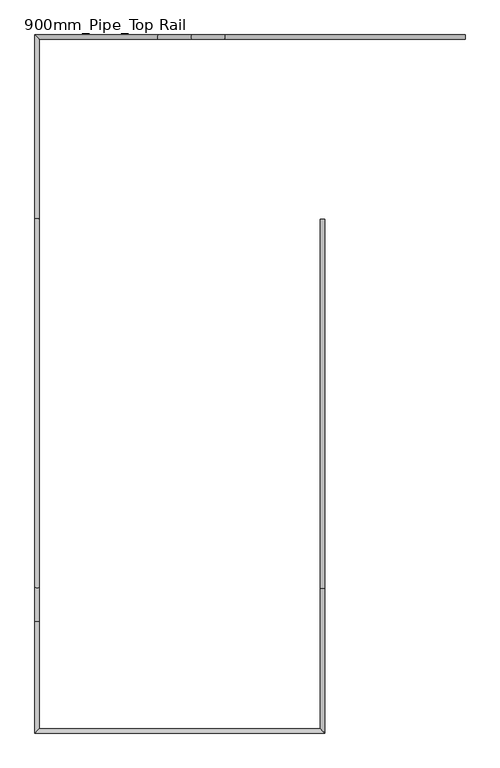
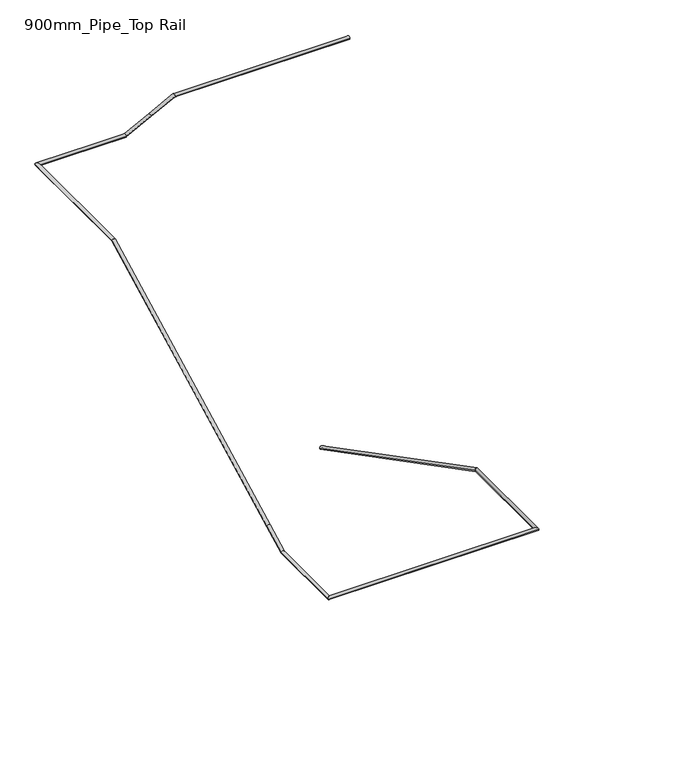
"""IFC4 building model written with IfcOpenShell, lengths in millimetres: railing geometry, 900mm_Pipe_Top Rail."""

from ifc_helpers import new_model, si_unit, frame, origin, place, context, project, spatial, circle_curve, ellipse_curve, source, transform, mapped, element, save
from ifc_brep_helpers import plane_surface, cylinder_surface, advanced_brep


def railing_900mm_pipe_top_rail_45b8a4e9(model_context):
    return source(origin(), model_context, "Body", "AdvancedBrep", [
        advanced_brep(
        [(-10835.2146087, 12214.8932827, 31043.2339199), (-10795.2146087, 12214.8932827, 31043.2339199), (-10835.2146087, 8910.0104617, 32759.2307692), (-10795.2146087, 8910.0104617, 32759.2307692), (-10835.2146087, 7659.8960687, 32759.2307692), (-10795.2146087, 7619.8960687, 32759.2307692), (-13345.3216429, 7659.8960687, 32759.2307692), (-13385.3216429, 7619.8960687, 32759.2307692), (-13345.3216429, 8619.7761036, 32759.2307692), (-13385.3216429, 8619.7761036, 32759.2307692), (-13345.3216429, 8924.1095881, 32917.2500785), (-13385.3216429, 8924.1095881, 32917.2500785), (-13345.3216429, 12219.7761036, 34628.4615385), (-13385.3216429, 12219.7761036, 34628.4615385), (-13345.3216429, 13819.8960687, 34628.4615385), (-13385.3216429, 13859.8960687, 34628.4615385), (-12285.3317877, 13819.8960687, 34628.4615385), (-12285.3317877, 13859.8960687, 34628.4615385), (-11980.9983033, 13819.8960687, 34786.4808477), (-11980.9983033, 13859.8960687, 34786.4808477), (-11685.3317877, 13819.8960687, 34940.0), (-11685.3317877, 13859.8960687, 34940.0), (-9540.5635412, 13819.8960687, 34940.0), (-9540.5635412, 13859.8960687, 34940.0)],
        [
            (0, 1, ellipse_curve(frame((-10815.2146087, 12214.8932827, 31043.2339199), z_axis=(0.0, 1.0, 0.0), x_axis=(0.0, 0.0, -1.0)), 22.5353109, 20.0)),
            (1, 0, ellipse_curve(frame((-10815.2146087, 12214.8932827, 31043.2339199), z_axis=(0.0, 1.0, 0.0), x_axis=(0.0, 0.0, -1.0)), 22.5353109, 20.0)),
            (0, 2),
            (2, 3, ellipse_curve(frame((-10815.2146087, 8910.0104617, 32759.2307692), z_axis=(0.0, 0.9714669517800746, -0.2371749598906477), x_axis=(0.0, -0.23717495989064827, -0.9714669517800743)), 20.5874219, 20.0)),
            (3, 1),
            (3, 2, ellipse_curve(frame((-10815.2146087, 8910.0104617, 32759.2307692), z_axis=(0.0, 0.9714669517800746, -0.2371749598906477), x_axis=(0.0, -0.23717495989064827, -0.9714669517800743)), 20.5874219, 20.0)),
            (2, 4),
            (4, 5, ellipse_curve(frame((-10815.2146087, 7639.8960687, 32759.2307692), z_axis=(0.7071067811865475, 0.7071067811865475, 0.0), x_axis=(-0.7071067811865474, 0.7071067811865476, 0.0)), 28.2842712, 20.0)),
            (5, 3),
            (5, 4, ellipse_curve(frame((-10815.2146087, 7639.8960687, 32759.2307692), z_axis=(0.7071067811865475, 0.7071067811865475, 0.0), x_axis=(-0.7071067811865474, 0.7071067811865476, 0.0)), 28.2842712, 20.0)),
            (4, 6),
            (6, 7, ellipse_curve(frame((-13365.3216429, 7639.8960687, 32759.2307692), z_axis=(0.7071067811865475, -0.7071067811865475, 0.0), x_axis=(0.7071067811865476, 0.7071067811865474, 0.0)), 28.2842712, 20.0)),
            (7, 5),
            (7, 6, ellipse_curve(frame((-13365.3216429, 7639.8960687, 32759.2307692), z_axis=(0.7071067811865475, -0.7071067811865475, 0.0), x_axis=(0.7071067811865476, 0.7071067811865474, 0.0)), 28.2842712, 20.0)),
            (6, 8),
            (8, 9, ellipse_curve(frame((-13365.3216429, 8619.7761036, 32759.2307692), z_axis=(0.0, -0.9714669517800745, -0.23717495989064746), x_axis=(0.0, -0.2371749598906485, 0.9714669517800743)), 20.5874219, 20.0)),
            (9, 7),
            (9, 8, ellipse_curve(frame((-13365.3216429, 8619.7761036, 32759.2307692), z_axis=(0.0, -0.9714669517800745, -0.23717495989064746), x_axis=(0.0, -0.2371749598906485, 0.9714669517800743)), 20.5874219, 20.0)),
            (8, 10),
            (10, 11, circle_curve(frame((-13365.3216429, 8924.1095881, 32917.2500785), z_axis=(0.0, -0.8874960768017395, -0.4608152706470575), x_axis=(-1.0, 0.0, 0.0)), 20.0)),
            (11, 9),
            (11, 10, circle_curve(frame((-13365.3216429, 8924.1095881, 32917.2500785), z_axis=(0.0, -0.8874960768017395, -0.4608152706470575), x_axis=(-1.0, 0.0, 0.0)), 20.0)),
            (10, 12),
            (12, 13, ellipse_curve(frame((-13365.3216429, 12219.7761036, 34628.4615385), z_axis=(0.0, -0.9714669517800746, -0.23717495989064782), x_axis=(0.0, 0.23717495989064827, -0.9714669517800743)), 20.5874219, 20.0)),
            (13, 11),
            (13, 12, ellipse_curve(frame((-13365.3216429, 12219.7761036, 34628.4615385), z_axis=(0.0, -0.9714669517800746, -0.23717495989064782), x_axis=(0.0, 0.23717495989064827, -0.9714669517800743)), 20.5874219, 20.0)),
            (12, 14),
            (14, 15, ellipse_curve(frame((-13365.3216429, 13839.8960687, 34628.4615385), z_axis=(-0.7071067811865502, -0.7071067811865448, 0.0), x_axis=(0.7071067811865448, -0.7071067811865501, 0.0)), 28.2842712, 20.0)),
            (15, 13),
            (15, 14, ellipse_curve(frame((-13365.3216429, 13839.8960687, 34628.4615385), z_axis=(-0.7071067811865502, -0.7071067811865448, 0.0), x_axis=(0.7071067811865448, -0.7071067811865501, 0.0)), 28.2842712, 20.0)),
            (14, 16),
            (16, 17, ellipse_curve(frame((-12285.3317877, 13839.8960687, 34628.4615385), z_axis=(-0.9714669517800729, 0.0, -0.23717495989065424), x_axis=(-0.2371749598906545, 0.0, 0.971466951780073)), 20.5874219, 20.0)),
            (17, 15),
            (17, 16, ellipse_curve(frame((-12285.3317877, 13839.8960687, 34628.4615385), z_axis=(-0.9714669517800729, 0.0, -0.23717495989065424), x_axis=(-0.2371749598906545, 0.0, 0.971466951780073)), 20.5874219, 20.0)),
            (16, 18),
            (18, 19, circle_curve(frame((-11980.9983033, 13839.8960687, 34786.4808477), z_axis=(-0.8874960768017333, 0.0, -0.4608152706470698), x_axis=(0.0, 1.0, 0.0)), 20.0)),
            (19, 17),
            (19, 18, circle_curve(frame((-11980.9983033, 13839.8960687, 34786.4808477), z_axis=(-0.8874960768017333, 0.0, -0.4608152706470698), x_axis=(0.0, 1.0, 0.0)), 20.0)),
            (18, 20),
            (20, 21, ellipse_curve(frame((-11685.3317877, 13839.8960687, 34940.0), z_axis=(-0.9714669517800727, 0.0, -0.23717495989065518), x_axis=(0.2371749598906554, 0.0, -0.9714669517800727)), 20.5874219, 20.0)),
            (21, 19),
            (21, 20, ellipse_curve(frame((-11685.3317877, 13839.8960687, 34940.0), z_axis=(-0.9714669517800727, 0.0, -0.23717495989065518), x_axis=(0.2371749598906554, 0.0, -0.9714669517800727)), 20.5874219, 20.0)),
            (22, 23, circle_curve(frame((-9540.5635412, 13839.8960687, 34940.0), z_axis=(1.0, 0.0, 0.0), x_axis=(0.0, 1.0, 0.0)), 20.0)),
            (23, 22, circle_curve(frame((-9540.5635412, 13839.8960687, 34940.0), z_axis=(1.0, 0.0, 0.0), x_axis=(0.0, 1.0, 0.0)), 20.0)),
            (20, 22),
            (23, 21),
        ],
        [
            plane_surface(frame((-10815.2146087, 12214.8932827, 31065.7692308), z_axis=(0.0, 1.0, 0.0), x_axis=(0.0, 0.0, -1.0))),
            cylinder_surface(frame((-10815.2146087, 12205.6769773, 31048.0193092), z_axis=(0.0, 0.8874960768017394, -0.4608152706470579), x_axis=(1.0, 0.0, 0.0)), 20.0),
            cylinder_surface(frame((-10815.2146087, 8914.8932827, 32759.2307692), z_axis=(0.0, 1.0, 0.0), x_axis=(1.0, 0.0, 0.0)), 20.0),
            cylinder_surface(frame((-10815.2146087, 7639.8960687, 32759.2307692), z_axis=(1.0, 0.0, 0.0), x_axis=(0.0, -1.0, 0.0)), 20.0),
            cylinder_surface(frame((-13365.3216429, 7639.8960687, 32759.2307692), z_axis=(0.0, -1.0, 0.0), x_axis=(-1.0, 0.0, 0.0)), 20.0),
            cylinder_surface(frame((-13365.3216429, 8624.1095881, 32761.4808477), z_axis=(0.0, -0.8874960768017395, -0.4608152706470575), x_axis=(-1.0, 0.0, 0.0)), 20.0),
            cylinder_surface(frame((-13365.3216429, 8924.1095881, 32917.2500785), z_axis=(0.0, -0.8874960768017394, -0.460815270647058), x_axis=(-1.0, 0.0, 0.0)), 20.0),
            cylinder_surface(frame((-13365.3216429, 12214.8932827, 34628.4615385), z_axis=(0.0, -1.0, 0.0), x_axis=(-1.0, 0.0, 0.0)), 20.0),
            cylinder_surface(frame((-13365.3216429, 13839.8960687, 34628.4615385), z_axis=(-1.0, 0.0, 0.0), x_axis=(0.0, 1.0, 0.0)), 20.0),
            cylinder_surface(frame((-12280.9983033, 13839.8960687, 34630.7116169), z_axis=(-0.8874960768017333, 0.0, -0.4608152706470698), x_axis=(0.0, 1.0, 0.0)), 20.0),
            cylinder_surface(frame((-11980.9983033, 13839.8960687, 34786.4808477), z_axis=(-0.8874960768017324, 0.0, -0.46081527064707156), x_axis=(0.0, 1.0, 0.0)), 20.0),
            plane_surface(frame((-9540.5635412, 13839.8960687, 34960.0), z_axis=(1.0, 0.0, 0.0), x_axis=(0.0, 1.0, 0.0))),
            cylinder_surface(frame((-11690.2146087, 13839.8960687, 34940.0), z_axis=(-1.0, 0.0, 0.0), x_axis=(0.0, 1.0, 0.0)), 20.0),
        ],
        [
            (0, [[1, 2]]),
            (1, [[-1, 3, 4, 5]]),
            (1, [[-2, -5, 6, -3]]),
            (2, [[-4, 7, 8, 9]]),
            (2, [[-6, -9, 10, -7]]),
            (3, [[-8, 11, 12, 13]]),
            (3, [[-10, -13, 14, -11]]),
            (4, [[-12, 15, 16, 17]]),
            (4, [[-14, -17, 18, -15]]),
            (5, [[-16, 19, 20, 21]]),
            (5, [[-18, -21, 22, -19]]),
            (6, [[-20, 23, 24, 25]]),
            (6, [[-22, -25, 26, -23]]),
            (7, [[-24, 27, 28, 29]]),
            (7, [[-26, -29, 30, -27]]),
            (8, [[-28, 31, 32, 33]]),
            (8, [[-30, -33, 34, -31]]),
            (9, [[-32, 35, 36, 37]]),
            (9, [[-34, -37, 38, -35]]),
            (10, [[-36, 39, 40, 41]]),
            (10, [[-38, -41, 42, -39]]),
            (11, [[43, 44]]),
            (12, [[-40, 45, -44, 46]]),
            (12, [[-42, -46, -43, -45]]),
        ],
    ),
    ])


if __name__ == "__main__":
    model = new_model("IFC4")
    model_context = context("Model", 3, world=origin())
    ifc_project = project(units=[si_unit("LENGTHUNIT", "METRE", prefix="MILLI")], contexts=[model_context])
    site = spatial("IfcSite", under=ifc_project)
    building = spatial("IfcBuilding", under=site)
    placement = place(None, origin())
    railing_900mm_pipe_top_rail_shape = railing_900mm_pipe_top_rail_45b8a4e9(model_context)
    element("IfcRailing", 1, ObjectType="900mm_Pipe_Top Rail", at=placement, inside=building, context=model_context, shape_type="MappedRepresentation", body=[
        mapped(railing_900mm_pipe_top_rail_shape, transform((0.0, 0.0, 0.0), x_axis=(1.0, 0.0, 0.0), y_axis=(0.0, 1.0, 0.0), z_axis=(0.0, 0.0, 1.0))),
    ])
    save(model, "model.ifc")
